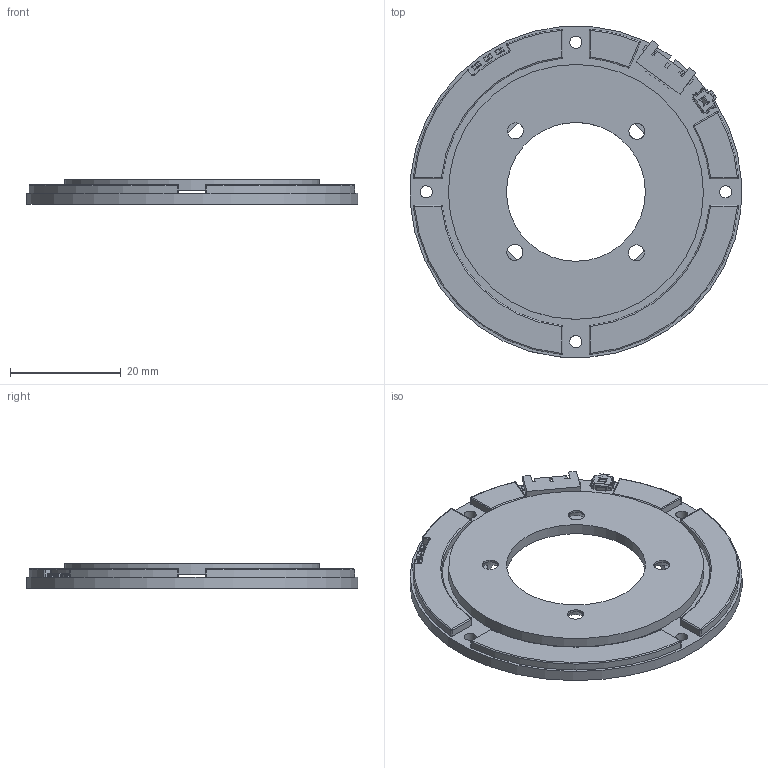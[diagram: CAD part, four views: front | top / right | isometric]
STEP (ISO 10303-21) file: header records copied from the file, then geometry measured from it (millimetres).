
FILE_DESCRIPTION(/* description */ ('Unknown'),/* implementation_level */ '2;1');
FILE_NAME(/* name */ 'RAIK060_assemblage_4_trous',/* time_stamp */ '2024-09-04T16:41:03+02:00',/* author */ ('Unknown'),/* organization */ ('Unknown'),/* preprocessor_version */ 'ST-DEVELOPER v19.4',/* originating_system */ 'Solid Edge',/* authorisation */ 'Unknown');
FILE_SCHEMA (('AUTOMOTIVE_DESIGN {1 0 10303 214 3 1 1}'));
Length unit declared in the file: millimetre
Products named in the file (8): 841048-3D_C0_Datasheet_Case_1; 841048-3D_C0_Datasheet; 5037630691_molex; Bouton; Led_S; Led_O; Led_G; 676389-3D_A0_TrousFraises
Assembly tree (7 placements, depth 2):
  841048-3D_C0_Datasheet_Case_1
    841048-3D_C0_Datasheet
    5037630691_molex
    Bouton
    Led_S
    Led_O
    Led_G
    676389-3D_A0_TrousFraises
Bounding box: 59.77 x 59.73 x 4.4 mm (x, y, z)
Volume: 7249.7 mm3; surface area: 8121.3 mm2
Topology: 61 solids, 61 shells, 1458 faces, 3890 edges, 2509 vertices
Faces by surface type: plane 1097, cylinder 249, bspline 72, sphere 22, torus 14, cone 4
Full cylindrical faces by diameter (mm): 2.2 x4, 2.9 x3, 25.05 x1, 32.5 x1, 46 x1
Entity records: 51291 total; most frequent: CARTESIAN_POINT 9022, ORIENTED_EDGE 7646, DIRECTION 7055, EDGE_CURVE 3823, LINE 3113, VECTOR 3113, VERTEX_POINT 2502, AXIS2_PLACEMENT_3D 1971
